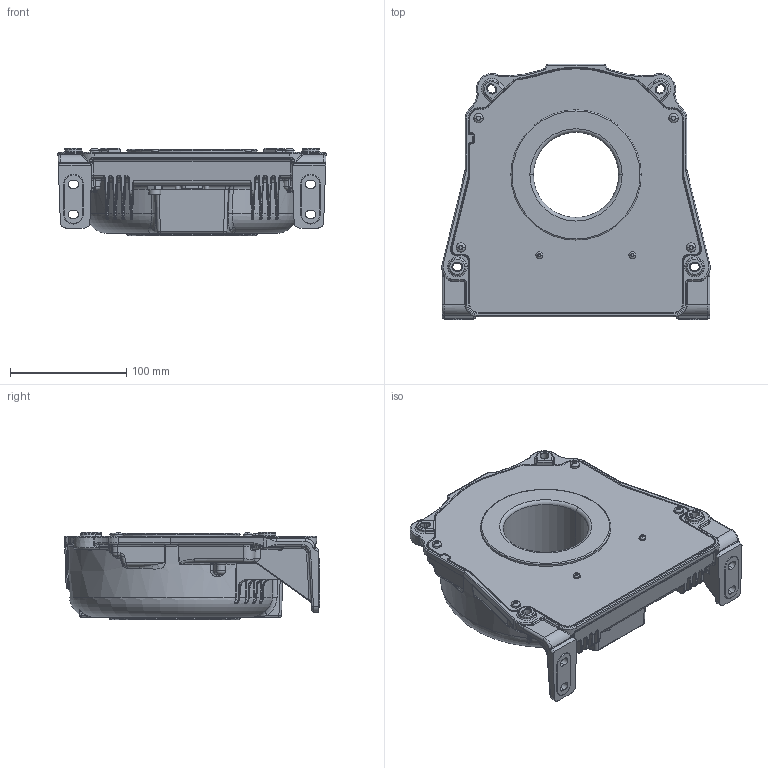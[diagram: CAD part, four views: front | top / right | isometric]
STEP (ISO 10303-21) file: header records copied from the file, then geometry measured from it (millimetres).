
FILE_DESCRIPTION(('Creo Elements/Direct Modeling STEP Export'),'2;1');
FILE_NAME('CAD_CUSTOMER_IN_2000.stp','2017-04-21T15:50:16',(''),(''),'PTC Creo Elements/Direct Modeling STEP processor for AP214 (Solid Model)','PTC Creo Elements/Direct Modeling 19.0B 21-Mar-2015 (C) Parametric Technology GmbH','');
FILE_SCHEMA(('AUTOMOTIVE_DESIGN { 1 0 10303 214 1 1 1 1 }'));
Products named in the file (2): CAD_CUSTOMER_CASE
Assembly tree (1 placements, depth 2):
  CAD_CUSTOMER_CASE
    CAD_CUSTOMER_CASE
Bounding box: 230.47 x 219.32 x 75 mm (x, y, z)
Volume: 531514.7 mm3; surface area: 278590.8 mm2
Topology: 1 solids, 5 shells, 3061 faces, 7466 edges, 4390 vertices
Faces by surface type: bspline 986, cylinder 810, plane 751, torus 317, cone 179, sphere 18
Entity records: 231311 total; most frequent: CARTESIAN_POINT 161071, ORIENTED_EDGE 14684, DIRECTION 9257, EDGE_CURVE 7342, VERTEX_POINT 4390, AXIS2_PLACEMENT_3D 3341, EDGE_LOOP 3188, FACE_OUTER_BOUND 3061
